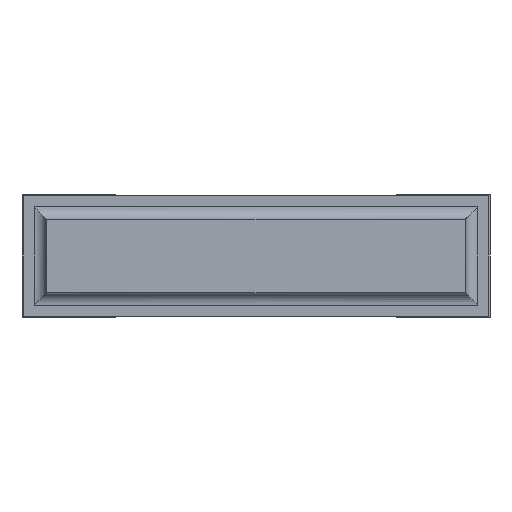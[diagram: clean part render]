
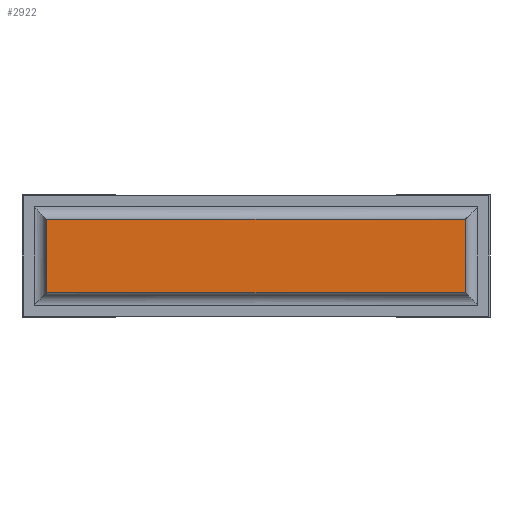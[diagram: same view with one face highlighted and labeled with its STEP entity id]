
A CAD part, front view. The second image highlights one B-rep face of the part: STEP entity #2922.
In plain terms, the highlighted planar face has unit normal (0, -1, 0).
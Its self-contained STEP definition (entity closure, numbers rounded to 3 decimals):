
#78=PLANE('',#3126);
#216=FACE_OUTER_BOUND('',#382,.T.);
#382=EDGE_LOOP('',(#2121,#2122,#2123,#2124));
#557=LINE('',#4222,#931);
#582=LINE('',#4281,#956);
#583=LINE('',#4283,#957);
#584=LINE('',#4284,#958);
#931=VECTOR('',#3402,10.);
#956=VECTOR('',#3455,10.);
#957=VECTOR('',#3456,10.);
#958=VECTOR('',#3457,10.);
#1319=VERTEX_POINT('',#4219);
#1320=VERTEX_POINT('',#4221);
#1340=VERTEX_POINT('',#4280);
#1341=VERTEX_POINT('',#4282);
#1615=EDGE_CURVE('',#1320,#1319,#557,.T.);
#1645=EDGE_CURVE('',#1319,#1340,#582,.T.);
#1646=EDGE_CURVE('',#1340,#1341,#583,.T.);
#1647=EDGE_CURVE('',#1341,#1320,#584,.T.);
#2121=ORIENTED_EDGE('',*,*,#1645,.T.);
#2122=ORIENTED_EDGE('',*,*,#1646,.T.);
#2123=ORIENTED_EDGE('',*,*,#1647,.T.);
#2124=ORIENTED_EDGE('',*,*,#1615,.T.);
#2922=ADVANCED_FACE('',(#216),#78,.T.);
#3126=AXIS2_PLACEMENT_3D('',#4279,#3453,#3454);
#3402=DIRECTION('',(0.,0.,-1.));
#3453=DIRECTION('center_axis',(0.,-1.,0.));
#3454=DIRECTION('ref_axis',(0.,0.,-1.));
#3455=DIRECTION('',(1.,0.,0.));
#3456=DIRECTION('',(0.,0.,1.));
#3457=DIRECTION('',(-1.,0.,0.));
#4219=CARTESIAN_POINT('',(0.1,0.,0.1));
#4221=CARTESIAN_POINT('',(0.1,0.,0.4));
#4222=CARTESIAN_POINT('',(0.1,0.,0.4));
#4279=CARTESIAN_POINT('Origin',(0.1,0.,0.25));
#4280=CARTESIAN_POINT('',(1.81,0.,0.1));
#4281=CARTESIAN_POINT('',(0.1,0.,0.1));
#4282=CARTESIAN_POINT('',(1.81,0.,0.4));
#4283=CARTESIAN_POINT('',(1.81,0.,0.1));
#4284=CARTESIAN_POINT('',(1.81,0.,0.4));
